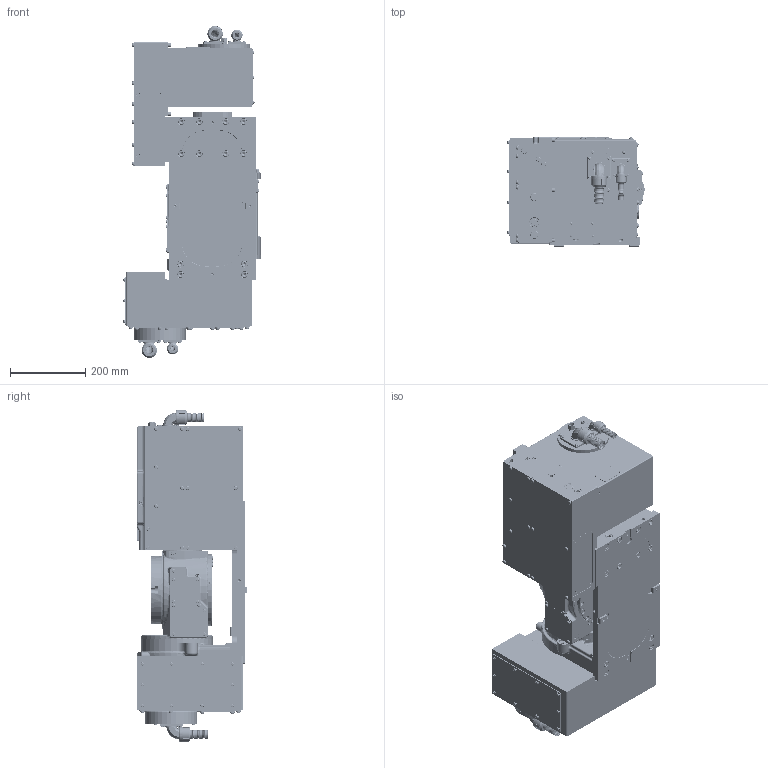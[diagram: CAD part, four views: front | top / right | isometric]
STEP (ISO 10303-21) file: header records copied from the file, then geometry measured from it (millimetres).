
FILE_DESCRIPTION (( 'STEP AP214' ), '1' );
FILE_NAME ('DHP-TW182BF-01.STEP', '2025-04-04T05:18:26', ( '' ), ( '' ), 'SwSTEP 2.0', 'SolidWorks 2022', '' );
FILE_SCHEMA (( 'AUTOMOTIVE_DESIGN' ));
Length unit declared in the file: millimetre
Products named in the file (66): 61E454420; 008CZA0035; 040BAA0001; 008CZA0038; 61E865973; 61E283102; 0030106010; 073BQA0002; 025AFA0004; 61E866344; 026ABA0117_平面内圧用; 61E865971; 073CAA0015; 008CUA0048; 008CZA0021; 0158010006; 61E866343; 0263002100_平面内圧用; 61E496143; 073CAA0013; 0263200700_平面内圧用; 0150010400; 61E865975; 61E385756; 008CUA0013; 61E475107; 040AZA0001; 61E865969; 0158010014; 61E454377; 61E385072; 61E484436; DHP-TW182BF-01; 61M419778; 61E399781; 0030106016; 040AZA0003; 61E865970; 0158000005; 61E250387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
Assembly tree (252 placements, depth 3):
  040BAA0001
  025AFA0004
  0263200700_平面内圧用
  040AZA0001
  DHP-TW182BF-01
    008CZA0035  x59
    0158000005  x59
    0030106016  x6
    61E270911
    61E283102
    61E457754
    61E457755
    61E475107
    61E475111
    61E475112
    61E484436
      61E486542
      017ACA0001_穴取付時  x4
    61E495305
      61E450780
      0158000005  x3
      008CZA0038  x3
      0263213000_平面内圧用
      073CAA0015
      073BQA0002
      073BQA0007
      073CAA0013
      0158010014
      0441125220_直接取付
      008CZA0021  x8
      0150010400  x8
    61E496143
      073CAA0015
      073BQA0002
      073BQA0007
      073CAA0013
      0158000005  x3
      008CZA0039  x3
      026ABA0117_平面内圧用
      0150010400  x8
      008CZA0021  x8
      61E456559
    61E822212
    61E454420
      0030106010  x3
      0030110045  x12
      008CUA0048
      040AZA0003
      0263002100_平面内圧用
      61E250387
      61E454377
      61M419778  x2
    61E866343
      61E865976
      61E865974
      61E865973
      61E865972
      61E865970
      61E865971
      61E865969
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Bounding box: 364.74 x 290 x 882.1 mm (x, y, z)
Volume: 24630984.4 mm3; surface area: 3968423.4 mm2
Topology: 342 solids, 344 shells, 13115 faces, 32995 edges, 20883 vertices
Faces by surface type: plane 4604, cylinder 3786, cone 2802, torus 1462, bspline 247, sphere 214
Entity records: 334098 total; most frequent: CARTESIAN_POINT 87459, DIRECTION 44296, ORIENTED_EDGE 43792, EDGE_CURVE 21896, AXIS2_PLACEMENT_3D 17386, VERTEX_POINT 14276, EDGE_LOOP 10080, LINE 9524
